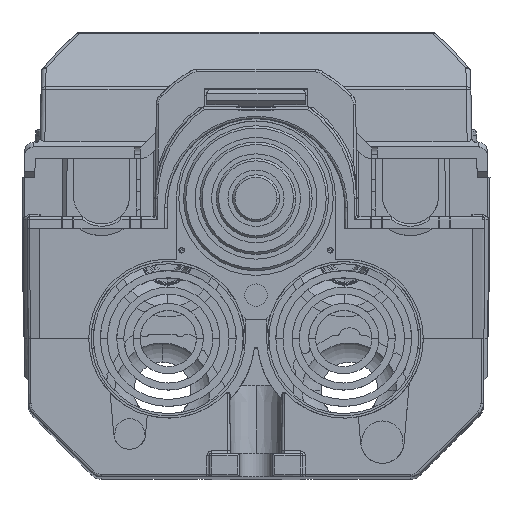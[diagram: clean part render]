
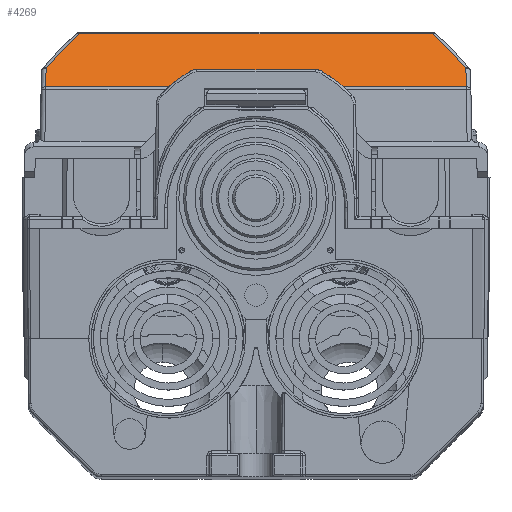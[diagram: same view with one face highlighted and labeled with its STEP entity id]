
A CAD part, top view. The second image highlights one B-rep face of the part: STEP entity #4269.
In plain terms, the highlighted planar face has unit normal (0, 0.707, 0.707).
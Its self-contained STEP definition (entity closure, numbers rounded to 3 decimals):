
#778 = EDGE_LOOP ( 'NONE', ( #7356, #36607, #12219, #25045, #47790, #28563 ) ) ;
#1400 = CARTESIAN_POINT ( 'NONE',  ( 37.642, 86.707, -16.706 ) ) ;
#1439 = LINE ( 'NONE', #43974, #16035 ) ;
#1500 = CARTESIAN_POINT ( 'NONE',  ( -44.856, 79.34, -9.339 ) ) ;
#2165 = VERTEX_POINT ( 'NONE', #36535 ) ;
#4269 = ADVANCED_FACE ( 'NONE', ( #9688 ), #48578, .F. ) ;
#5753 = VECTOR ( 'NONE', #56039, 1000. ) ;
#6716 =( BOUNDED_CURVE ( )  B_SPLINE_CURVE ( 3, ( #21080, #11286, #40610, #1400 ),
 .UNSPECIFIED., .F., .F. ) 
 B_SPLINE_CURVE_WITH_KNOTS ( ( 4, 4 ),
 ( 2.24, 2.451 ),
 .UNSPECIFIED. ) 
 CURVE ( )  GEOMETRIC_REPRESENTATION_ITEM ( )  RATIONAL_B_SPLINE_CURVE ( ( 1., 0.996, 0.996, 1. ) ) 
 REPRESENTATION_ITEM ( '' )  );
#7356 = ORIENTED_EDGE ( 'NONE', *, *, #49647, .T. ) ;
#7446 = EDGE_CURVE ( 'NONE', #2165, #23962, #24314, .T. ) ;
#8979 = EDGE_CURVE ( 'NONE', #14862, #2165, #6716, .T. ) ;
#9192 = CARTESIAN_POINT ( 'NONE',  ( -42.716, 82.045, -12.044 ) ) ;
#9688 = FACE_OUTER_BOUND ( 'NONE', #778, .T. ) ;
#11286 = CARTESIAN_POINT ( 'NONE',  ( 42.714, 82.045, -12.044 ) ) ;
#12219 = ORIENTED_EDGE ( 'NONE', *, *, #8979, .T. ) ;
#12596 = CARTESIAN_POINT ( 'NONE',  ( 44.855, 79.34, -9.339 ) ) ;
#13021 = DIRECTION ( 'NONE',  ( 1., 0., 0. ) ) ;
#14862 = VERTEX_POINT ( 'NONE', #12596 ) ;
#16035 = VECTOR ( 'NONE', #19527, 1000. ) ;
#16864 = CARTESIAN_POINT ( 'NONE',  ( -44.93, 75.094, -5.093 ) ) ;
#19055 = VERTEX_POINT ( 'NONE', #46566 ) ;
#19527 = DIRECTION ( 'NONE',  ( -0.012, 0.707, -0.707 ) ) ;
#21080 = CARTESIAN_POINT ( 'NONE',  ( 44.855, 79.34, -9.339 ) ) ;
#21589 = CARTESIAN_POINT ( 'NONE',  ( -37.643, 86.707, -16.706 ) ) ;
#22930 = VECTOR ( 'NONE', #13021, 1000. ) ;
#23231 = AXIS2_PLACEMENT_3D ( 'NONE', #43826, #63292, #48143 ) ;
#23962 = VERTEX_POINT ( 'NONE', #21589 ) ;
#24314 = LINE ( 'NONE', #29987, #35825 ) ;
#24993 = EDGE_CURVE ( 'NONE', #51442, #19055, #56309, .T. ) ;
#25045 = ORIENTED_EDGE ( 'NONE', *, *, #7446, .T. ) ;
#28563 = ORIENTED_EDGE ( 'NONE', *, *, #24993, .T. ) ;
#29987 = CARTESIAN_POINT ( 'NONE',  ( -38.001, 86.707, -16.706 ) ) ;
#32295 = EDGE_CURVE ( 'NONE', #43136, #14862, #1439, .T. ) ;
#33575 = CARTESIAN_POINT ( 'NONE',  ( -37.643, 86.707, -16.706 ) ) ;
#35443 =( BOUNDED_CURVE ( )  B_SPLINE_CURVE ( 3, ( #33575, #38477, #9192, #43412 ),
 .UNSPECIFIED., .F., .F. ) 
 B_SPLINE_CURVE_WITH_KNOTS ( ( 4, 4 ),
 ( 3.832, 4.043 ),
 .UNSPECIFIED. ) 
 CURVE ( )  GEOMETRIC_REPRESENTATION_ITEM ( )  RATIONAL_B_SPLINE_CURVE ( ( 1., 0.996, 0.996, 1. ) ) 
 REPRESENTATION_ITEM ( '' )  );
#35825 = VECTOR ( 'NONE', #57379, 1000. ) ;
#36535 = CARTESIAN_POINT ( 'NONE',  ( 37.642, 86.707, -16.706 ) ) ;
#36607 = ORIENTED_EDGE ( 'NONE', *, *, #32295, .T. ) ;
#38008 = CARTESIAN_POINT ( 'NONE',  ( 44.925, 75.36, -5.359 ) ) ;
#38477 = CARTESIAN_POINT ( 'NONE',  ( -40.302, 84.51, -14.509 ) ) ;
#40610 = CARTESIAN_POINT ( 'NONE',  ( 40.301, 84.51, -14.509 ) ) ;
#43136 = VERTEX_POINT ( 'NONE', #38008 ) ;
#43412 = CARTESIAN_POINT ( 'NONE',  ( -44.856, 79.34, -9.339 ) ) ;
#43826 = CARTESIAN_POINT ( 'NONE',  ( -49.955, 74., -3.999 ) ) ;
#43974 = CARTESIAN_POINT ( 'NONE',  ( 44.861, 78.978, -8.977 ) ) ;
#45329 = EDGE_CURVE ( 'NONE', #23962, #51442, #35443, .T. ) ;
#46566 = CARTESIAN_POINT ( 'NONE',  ( -44.926, 75.36, -5.359 ) ) ;
#47303 = CARTESIAN_POINT ( 'NONE',  ( 45.917, 75.36, -5.359 ) ) ;
#47790 = ORIENTED_EDGE ( 'NONE', *, *, #45329, .T. ) ;
#48143 = DIRECTION ( 'NONE',  ( 0., 0.707, -0.707 ) ) ;
#48578 = PLANE ( 'NONE',  #23231 ) ;
#49647 = EDGE_CURVE ( 'NONE', #19055, #43136, #60491, .T. ) ;
#51442 = VERTEX_POINT ( 'NONE', #1500 ) ;
#56039 = DIRECTION ( 'NONE',  ( -0.012, -0.707, 0.707 ) ) ;
#56309 = LINE ( 'NONE', #16864, #5753 ) ;
#57379 = DIRECTION ( 'NONE',  ( -1., 0., 0. ) ) ;
#60491 = LINE ( 'NONE', #47303, #22930 ) ;
#63292 = DIRECTION ( 'NONE',  ( 0., -0.707, -0.707 ) ) ;
